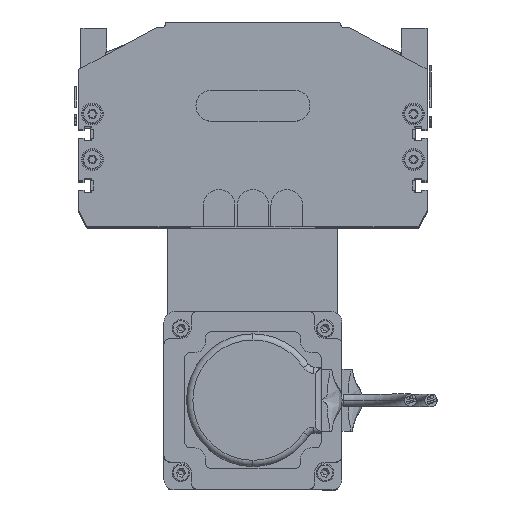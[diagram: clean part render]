
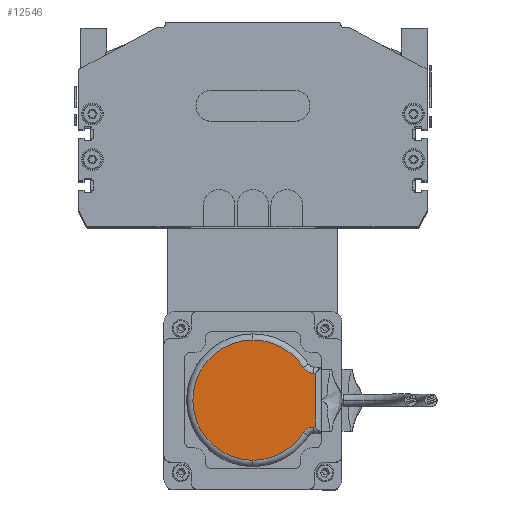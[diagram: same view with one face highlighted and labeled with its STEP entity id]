
A CAD part, top view. The second image highlights one B-rep face of the part: STEP entity #12546.
In plain terms, the highlighted planar face has unit normal (0, 0, 1).
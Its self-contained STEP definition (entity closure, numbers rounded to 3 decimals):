
#7661 = VERTEX_POINT ( 'NONE', #57905 ) ;
#12105 = VERTEX_POINT ( 'NONE', #46701 ) ;
#12164 = EDGE_CURVE ( 'NONE', #12105, #7661, #46836, .T. ) ;
#12524 = VERTEX_POINT ( 'NONE', #48802 ) ;
#12527 = VERTEX_POINT ( 'NONE', #48810 ) ;
#12529 = EDGE_CURVE ( 'NONE', #7661, #12524, #48849, .T. ) ;
#12536 = EDGE_LOOP ( 'NONE', ( #12547, #12551, #12549, #12543, #61196, #61185, #61258, #61267 ) ) ;
#12543 = ORIENTED_EDGE ( 'NONE', *, *, #61259, .T. ) ;
#12546 = ADVANCED_FACE ( 'NONE', ( #48882 ), #48814, .T. ) ;
#12547 = ORIENTED_EDGE ( 'NONE', *, *, #12548, .F. ) ;
#12548 = EDGE_CURVE ( 'NONE', #12105, #12527, #48815, .T. ) ;
#12549 = ORIENTED_EDGE ( 'NONE', *, *, #12529, .T. ) ;
#12551 = ORIENTED_EDGE ( 'NONE', *, *, #12164, .T. ) ;
#24238 = CARTESIAN_POINT ( 'NONE',  ( 46., 62.394, 26. ) ) ;
#24239 = DIRECTION ( 'NONE',  ( 0., -1., 0. ) ) ;
#24240 = VECTOR ( 'NONE', #24239, 1000. ) ;
#24241 = CARTESIAN_POINT ( 'NONE',  ( 20., 33., 26. ) ) ;
#24242 = LINE ( 'NONE', #24241, #24240 ) ;
#24244 = CARTESIAN_POINT ( 'NONE',  ( 48.743, 57.355, 26. ) ) ;
#24378 = LINE ( 'NONE', #24397, #24396 ) ;
#24394 = CARTESIAN_POINT ( 'NONE',  ( 46., 63., 26. ) ) ;
#24395 = DIRECTION ( 'NONE',  ( -1., 0., 0. ) ) ;
#24396 = VECTOR ( 'NONE', #24395, 1000. ) ;
#24397 = CARTESIAN_POINT ( 'NONE',  ( 17.5, 63., 26. ) ) ;
#24401 = DIRECTION ( 'NONE',  ( 1., 0., 0. ) ) ;
#24402 = DIRECTION ( 'NONE',  ( 0., 0., 1. ) ) ;
#24403 = CARTESIAN_POINT ( 'NONE',  ( 33., 33., 26. ) ) ;
#24404 = DIRECTION ( 'NONE',  ( 0., 0., 1. ) ) ;
#24405 = CIRCLE ( 'NONE', #24411, 29. ) ;
#24411 = AXIS2_PLACEMENT_3D ( 'NONE', #24403, #24402, #24401 ) ;
#24415 = CARTESIAN_POINT ( 'NONE',  ( 20., 63., 26. ) ) ;
#24417 = CIRCLE ( 'NONE', #24427, 6. ) ;
#24427 = AXIS2_PLACEMENT_3D ( 'NONE', #24452, #24404, #24445 ) ;
#24445 = DIRECTION ( 'NONE',  ( 1., 0., 0. ) ) ;
#24448 = DIRECTION ( 'NONE',  ( 0., 1., 0. ) ) ;
#24449 = VECTOR ( 'NONE', #24448, 1000. ) ;
#24450 = CARTESIAN_POINT ( 'NONE',  ( 46., 33., 26. ) ) ;
#24451 = LINE ( 'NONE', #24450, #24449 ) ;
#24452 = CARTESIAN_POINT ( 'NONE',  ( 52., 62.394, 26. ) ) ;
#46701 = CARTESIAN_POINT ( 'NONE',  ( 17.257, 57.355, 26. ) ) ;
#46836 = CIRCLE ( 'NONE', #46845, 29. ) ;
#46845 = AXIS2_PLACEMENT_3D ( 'NONE', #46852, #46889, #46888 ) ;
#46852 = CARTESIAN_POINT ( 'NONE',  ( 33., 33., 26. ) ) ;
#46888 = DIRECTION ( 'NONE',  ( 1., 0., 0. ) ) ;
#46889 = DIRECTION ( 'NONE',  ( 0., 0., 1. ) ) ;
#48783 = CARTESIAN_POINT ( 'NONE',  ( 33., 33., 26. ) ) ;
#48802 = CARTESIAN_POINT ( 'NONE',  ( 62., 33., 26. ) ) ;
#48810 = CARTESIAN_POINT ( 'NONE',  ( 20., 62.394, 26. ) ) ;
#48814 = PLANE ( 'NONE',  #48873 ) ;
#48815 = CIRCLE ( 'NONE', #48867, 6. ) ;
#48841 = DIRECTION ( 'NONE',  ( 1., 0., 0. ) ) ;
#48842 = AXIS2_PLACEMENT_3D ( 'NONE', #48783, #48850, #48841 ) ;
#48849 = CIRCLE ( 'NONE', #48842, 29. ) ;
#48850 = DIRECTION ( 'NONE',  ( 0., 0., 1. ) ) ;
#48866 = DIRECTION ( 'NONE',  ( 1., 0., 0. ) ) ;
#48867 = AXIS2_PLACEMENT_3D ( 'NONE', #48880, #48875, #48866 ) ;
#48870 = DIRECTION ( 'NONE',  ( 1., 0., 0. ) ) ;
#48871 = DIRECTION ( 'NONE',  ( 0., 0., 1. ) ) ;
#48872 = CARTESIAN_POINT ( 'NONE',  ( 33., 33., 26. ) ) ;
#48873 = AXIS2_PLACEMENT_3D ( 'NONE', #48872, #48871, #48870 ) ;
#48875 = DIRECTION ( 'NONE',  ( 0., 0., 1. ) ) ;
#48880 = CARTESIAN_POINT ( 'NONE',  ( 14., 62.394, 26. ) ) ;
#48882 = FACE_OUTER_BOUND ( 'NONE', #12536, .T. ) ;
#57905 = CARTESIAN_POINT ( 'NONE',  ( 4., 33., 26. ) ) ;
#61185 = ORIENTED_EDGE ( 'NONE', *, *, #61263, .T. ) ;
#61193 = EDGE_CURVE ( 'NONE', #61260, #12527, #24242, .T. ) ;
#61195 = VERTEX_POINT ( 'NONE', #24244 ) ;
#61196 = ORIENTED_EDGE ( 'NONE', *, *, #61265, .F. ) ;
#61197 = VERTEX_POINT ( 'NONE', #24238 ) ;
#61258 = ORIENTED_EDGE ( 'NONE', *, *, #61262, .T. ) ;
#61259 = EDGE_CURVE ( 'NONE', #12524, #61195, #24405, .T. ) ;
#61260 = VERTEX_POINT ( 'NONE', #24415 ) ;
#61262 = EDGE_CURVE ( 'NONE', #61264, #61260, #24378, .T. ) ;
#61263 = EDGE_CURVE ( 'NONE', #61197, #61264, #24451, .T. ) ;
#61264 = VERTEX_POINT ( 'NONE', #24394 ) ;
#61265 = EDGE_CURVE ( 'NONE', #61197, #61195, #24417, .T. ) ;
#61267 = ORIENTED_EDGE ( 'NONE', *, *, #61193, .T. ) ;
